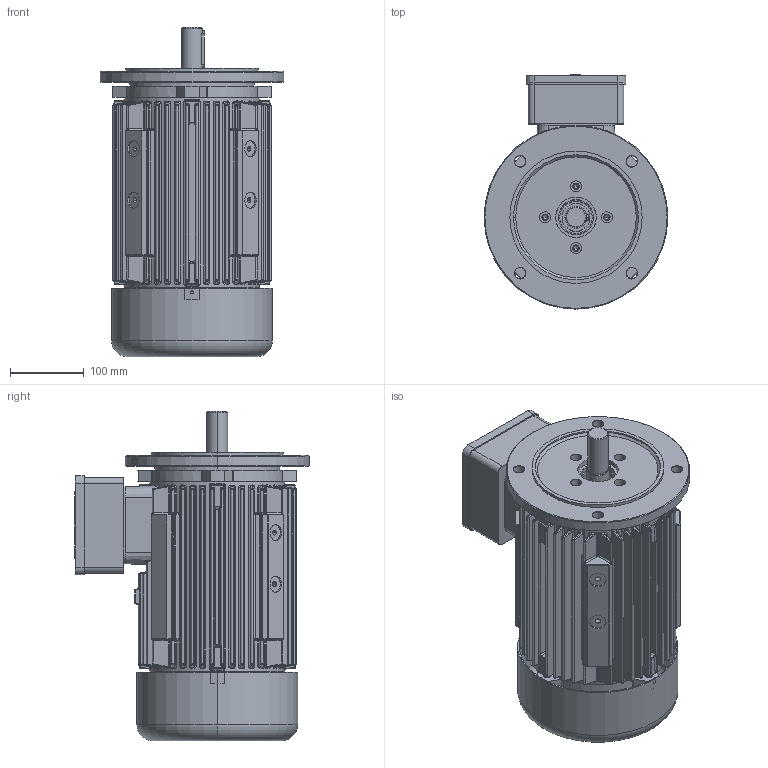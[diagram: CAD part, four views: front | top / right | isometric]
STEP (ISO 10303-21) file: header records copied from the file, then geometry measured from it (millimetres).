
FILE_DESCRIPTION (( 'STEP AP214' ), '1' );
FILE_NAME ('20.18366-B 7AZ 112 B5 STANDK.STEP', '2018-04-10T12:59:31', ( '' ), ( '' ), 'SwSTEP 2.0', 'SolidWorks 2017', '' );
FILE_SCHEMA (( 'AUTOMOTIVE_DESIGN' ));
Length unit declared in the file: millimetre
Products named in the file (1): 20.18366-B 7AZ 112 B5 STANDK
Bounding box: 250 x 318.8 x 448 mm (x, y, z)
Volume: 4545426.7 mm3; surface area: 1249980.5 mm2
Topology: 10 solids, 10 shells, 2986 faces, 7229 edges, 4158 vertices
Faces by surface type: cylinder 1074, bspline 981, plane 606, sphere 118, cone 116, torus 91
Entity records: 148381 total; most frequent: CARTESIAN_POINT 60222, ORIENTED_EDGE 13982, DIRECTION 11293, EDGE_CURVE 6991, AXIS2_PLACEMENT_3D 4438, VERTEX_POINT 4148, EDGE_LOOP 3189, FACE_OUTER_BOUND 2986
